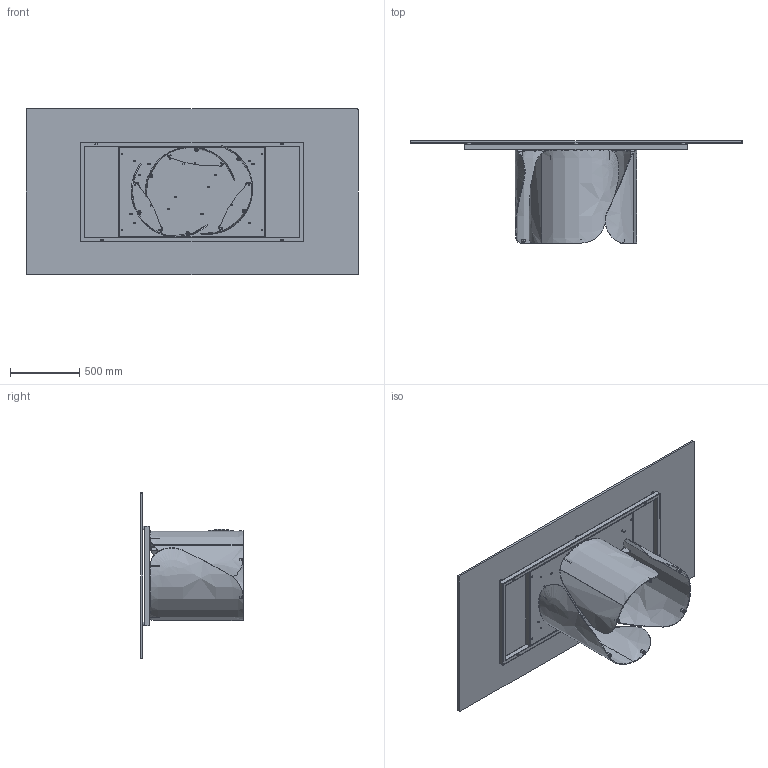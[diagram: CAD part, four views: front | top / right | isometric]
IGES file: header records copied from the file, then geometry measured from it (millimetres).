
Start section: SolidWorks IGES file using analytic representation for surfaces
Global section: file name: Y:\eforma\TECNICO\SOLIDWORKS\E-FORMA\1-TAVOLI\ONDA\02 parts\ON23G.IGS; native system: SolidWorks 2022; preprocessor: SolidWorks 2022; author: eforma.tech; date: 240806.155159; units: millimetre
Bounding box: 2400 x 741 x 1200 mm (x, y, z)
Volume: 56112509.3 mm3; surface area: 12161353.7 mm2
Topology: 63 solids, 63 shells, 1551 faces, 3509 edges, 2114 vertices
Faces by surface type: revolution 909, plane 582, bspline 60
